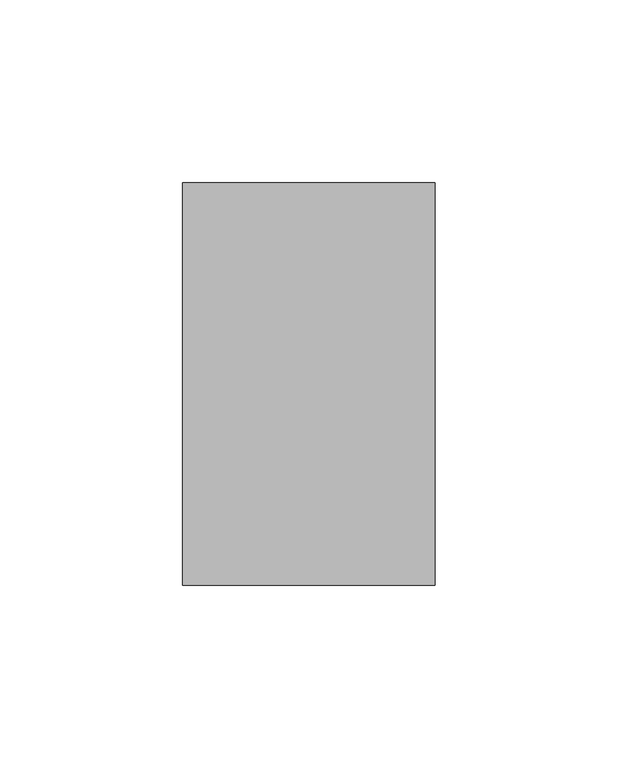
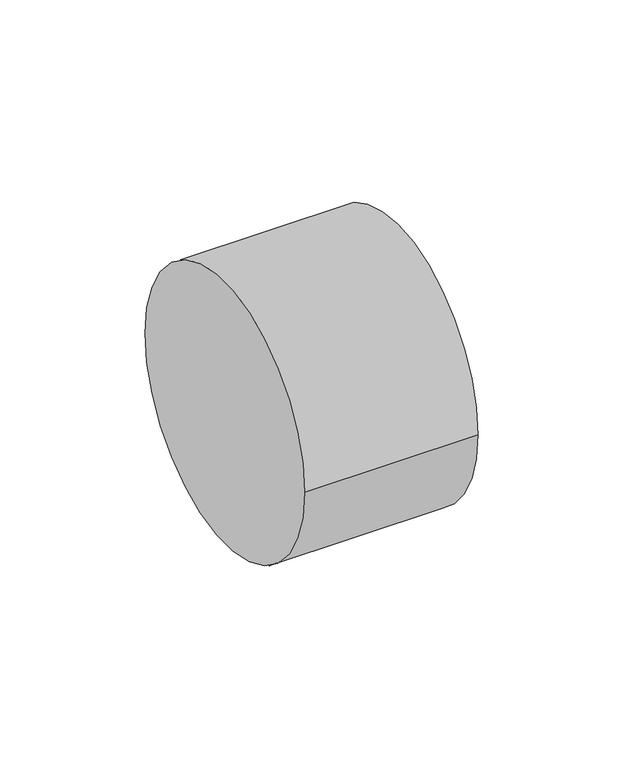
"""IFC4 building model written with IfcOpenShell, lengths in millimetres: pipe fitting geometry, NLRS_52_UN_PIF_PVC dubbele verloopring_PipeLife : Grijs, var. DN/OD."""

from ifc_helpers import new_model, si_unit, frame, origin, place, context, project, spatial, polyline, circle_curve, source, transform, mapped, element, save
from ifc_brep_helpers import plane_surface, cylinder_surface, revolved_surface, advanced_brep


def pipe_fitting_9f1e6ddc(model_context):
    return source(origin(), model_context, "Body", "AdvancedBrep", [
        advanced_brep(
        [(31.6430141, -55.0, 31.7340661), (31.6430141, 55.0, 31.7340661), (31.6430141, 25.1, 58.4340661), (31.6430141, -25.1, 58.4340661), (31.6430141, 25.1, 5.0340661), (31.6430141, -25.1, 5.0340661), (-37.3569859, -55.0, 31.7340661), (-37.3569859, 55.0, 31.7340661), (-17.0109174, -25.1, 58.4340661), (-17.0109174, 25.1, 58.4340661), (-17.0109174, -25.1, 5.0340661), (-17.0109174, 25.1, 5.0340661)],
        [
            (0, 1, circle_curve(frame((31.6430141, 0.0, 31.7340661), z_axis=(1.0, 0.0, 0.0), x_axis=(0.0, 1.0, 0.0)), 55.0)),
            (1, 0, circle_curve(frame((31.6430141, 0.0, 31.7340661), z_axis=(1.0, 0.0, 0.0), x_axis=(0.0, 1.0, 0.0)), 55.0)),
            (2, 3, circle_curve(frame((31.6430141, 0.0, 58.4340661), z_axis=(-1.0, 0.0, 0.0), x_axis=(0.0, 1.0, 0.0)), 25.1)),
            (3, 2, circle_curve(frame((31.6430141, 0.0, 58.4340661), z_axis=(-1.0, 0.0, 0.0), x_axis=(0.0, 1.0, 0.0)), 25.1)),
            (4, 5, circle_curve(frame((31.6430141, 0.0, 5.0340661), z_axis=(-1.0, 0.0, 0.0), x_axis=(0.0, 1.0, 0.0)), 25.1)),
            (5, 4, circle_curve(frame((31.6430141, 0.0, 5.0340661), z_axis=(-1.0, 0.0, 0.0), x_axis=(0.0, 1.0, 0.0)), 25.1)),
            (6, 7, circle_curve(frame((-37.3569859, 0.0, 31.7340661), z_axis=(-1.0, 0.0, 0.0), x_axis=(0.0, 1.0, 0.0)), 55.0)),
            (7, 6, circle_curve(frame((-37.3569859, 0.0, 31.7340661), z_axis=(-1.0, 0.0, 0.0), x_axis=(0.0, 1.0, 0.0)), 55.0)),
            (1, 7),
            (6, 0),
            (8, 9, circle_curve(frame((-17.0109174, 0.0, 58.4340661), z_axis=(1.0, 0.0, 0.0), x_axis=(0.0, 1.0, 0.0)), 25.1)),
            (9, 8, circle_curve(frame((-17.0109174, 0.0, 58.4340661), z_axis=(1.0, 0.0, 0.0), x_axis=(0.0, 1.0, 0.0)), 25.1)),
            (8, 3),
            (2, 9),
            (10, 11, circle_curve(frame((-17.0109174, 0.0, 5.0340661), z_axis=(1.0, 0.0, 0.0), x_axis=(0.0, 1.0, 0.0)), 25.1)),
            (11, 10, circle_curve(frame((-17.0109174, 0.0, 5.0340661), z_axis=(1.0, 0.0, 0.0), x_axis=(0.0, 1.0, 0.0)), 25.1)),
            (10, 5),
            (4, 11),
        ],
        [
            plane_surface(frame((31.6430141, 55.0, 31.7340661), z_axis=(1.0, 0.0, 0.0), x_axis=(0.0, 0.0, 1.0))),
            plane_surface(frame((-37.3569859, 55.0, 31.7340661), z_axis=(-1.0, 0.0, 0.0), x_axis=(0.0, 0.0, -1.0))),
            cylinder_surface(frame((31.6430141, 0.0, 31.7340661), z_axis=(-1.0, 0.0, 0.0), x_axis=(0.0, 1.0, 0.0)), 55.0),
            plane_surface(frame((-17.0109174, 25.1, 58.4340661), z_axis=(1.0, 0.0, 0.0), x_axis=(0.0, 0.0, -1.0))),
            revolved_surface(polyline([(-17.0109174, 25.1, 58.4340661), (31.6430141, 25.1, 58.4340661)]), (31.6430141, 0.0, 58.4340661), (-1.0, 0.0, 0.0)),
            plane_surface(frame((-17.0109174, 25.1, 5.0340661), z_axis=(1.0, 0.0, 0.0), x_axis=(0.0, 0.0, -1.0))),
            revolved_surface(polyline([(31.6430141, 25.1, 5.0340661), (-17.0109174, 25.1, 5.0340661)]), (-17.0109174, 0.0, 5.0340661), (1.0, 0.0, 0.0)),
        ],
        [
            (0, [[1, 2], [3, 4], [5, 6]]),
            (1, [[7, 8]]),
            (2, [[-2, 9, -7, 10]]),
            (2, [[-1, -10, -8, -9]]),
            (3, [[11, 12]]),
            (4, [[-11, 13, -3, 14]]),
            (4, [[-12, -14, -4, -13]]),
            (5, [[15, 16]]),
            (6, [[-15, 17, -5, 18]]),
            (6, [[-16, -18, -6, -17]]),
        ],
    ),
    ])


if __name__ == "__main__":
    model = new_model("IFC4")
    model_context = context("Model", 3, world=origin())
    ifc_project = project(units=[si_unit("LENGTHUNIT", "METRE", prefix="MILLI")], contexts=[model_context])
    site = spatial("IfcSite", under=ifc_project)
    building = spatial("IfcBuilding", under=site)
    placement = place(None, origin())
    pipe_fitting_shape = pipe_fitting_9f1e6ddc(model_context)
    element("IfcPipeFitting", 1, ObjectType="NLRS_52_UN_PIF_PVC dubbele verloopring_PipeLife : Grijs, var. DN/OD", at=placement, inside=building, context=model_context, shape_type="MappedRepresentation", body=[
        mapped(pipe_fitting_shape, transform((0.0, 0.0, 0.0), x_axis=(1.0, 0.0, 0.0), y_axis=(0.0, 1.0, 0.0), z_axis=(0.0, 0.0, 1.0))),
    ])
    save(model, "model.ifc")
